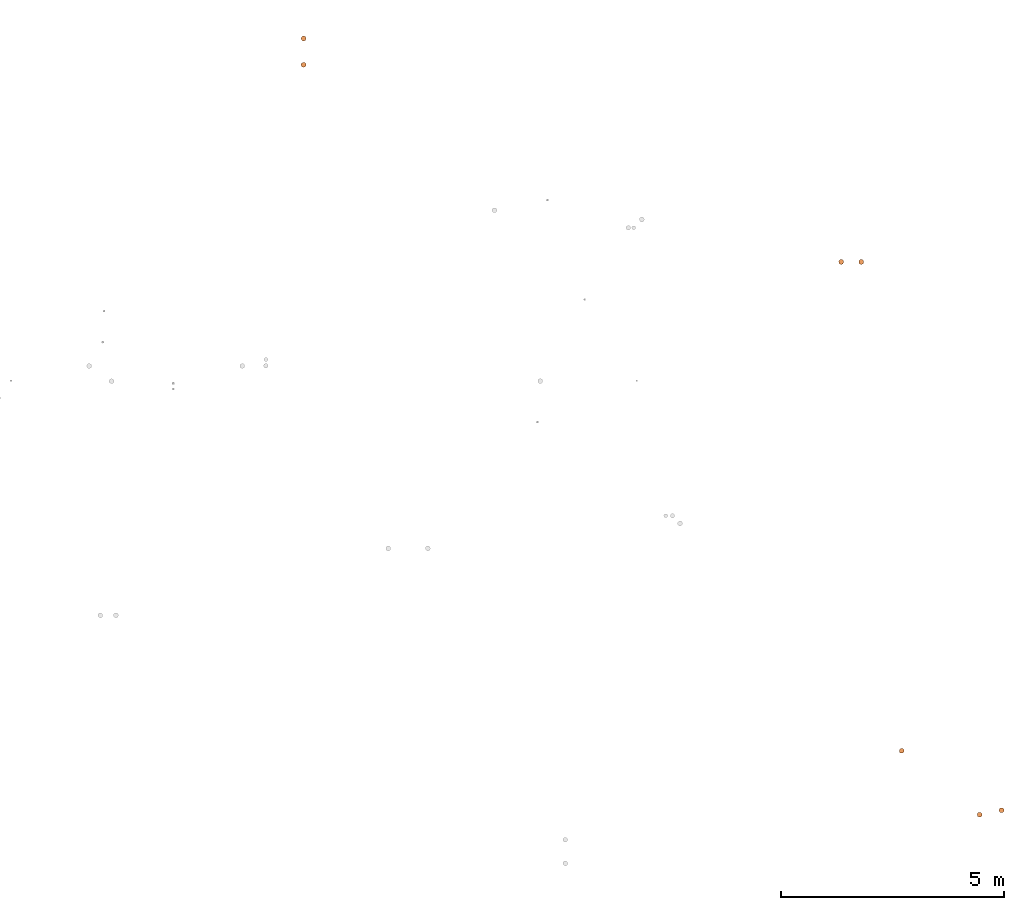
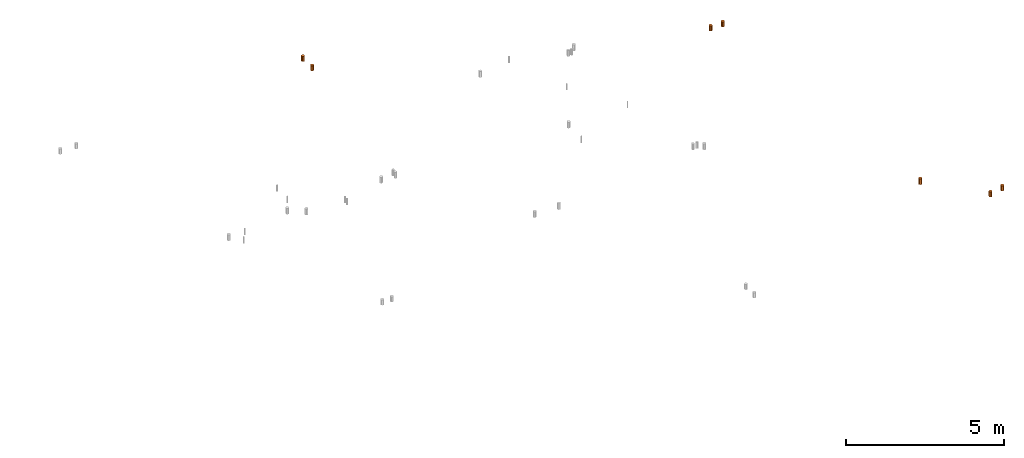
# One storey, part 16 of 16: 7 proxies.
"""IFC2X3 building model written with IfcOpenShell, lengths in centimetres."""

from ifc_helpers import new_model, entity, si_unit, converted_unit, derived_unit, direction, frame, origin, origin_2d_with_axis, place, context, subcontext, project, spatial, circle, extrude, source, transform, mapped, material, type_object, type_shapes, element, save


model = new_model("IFC2X3")

# Units and contexts
model_context = context("Model", 3, precision=0.001, world=origin(), true_north=direction((6.12303176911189e-17, 1.0)))
body_context = subcontext(model_context, "Body", "Model", "MODEL_VIEW")
ifc_project = project(units=[si_unit("LENGTHUNIT", "METRE", prefix="CENTI"), si_unit("AREAUNIT", "SQUARE_METRE"), si_unit("VOLUMEUNIT", "CUBIC_METRE"), converted_unit("PLANEANGLEUNIT", "DEGREE", entity("IfcRatioMeasure", 0.0174532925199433), si_unit("PLANEANGLEUNIT", "RADIAN"), dimensions=[0, 0, 0, 0, 0, 0, 0]), si_unit("MASSUNIT", "GRAM", prefix="KILO"), derived_unit("MASSDENSITYUNIT", [(si_unit("MASSUNIT", "GRAM", prefix="KILO"), 1), (si_unit("LENGTHUNIT", "METRE"), -3)]), si_unit("TIMEUNIT", "SECOND"), si_unit("FREQUENCYUNIT", "HERTZ"), si_unit("THERMODYNAMICTEMPERATUREUNIT", "DEGREE_CELSIUS"), derived_unit("THERMALTRANSMITTANCEUNIT", [(si_unit("MASSUNIT", "GRAM", prefix="KILO"), 1), (si_unit("THERMODYNAMICTEMPERATUREUNIT", "KELVIN"), -1), (si_unit("TIMEUNIT", "SECOND"), -3)]), derived_unit("VOLUMETRICFLOWRATEUNIT", [(si_unit("LENGTHUNIT", "METRE"), 3), (si_unit("TIMEUNIT", "SECOND"), -1)]), si_unit("ELECTRICCURRENTUNIT", "AMPERE"), si_unit("ELECTRICVOLTAGEUNIT", "VOLT"), si_unit("POWERUNIT", "WATT"), si_unit("FORCEUNIT", "NEWTON"), si_unit("ILLUMINANCEUNIT", "LUX"), si_unit("LUMINOUSFLUXUNIT", "LUMEN"), si_unit("LUMINOUSINTENSITYUNIT", "CANDELA"), derived_unit("USERDEFINED", [(si_unit("MASSUNIT", "GRAM", prefix="KILO"), -1), (si_unit("LENGTHUNIT", "METRE"), -2), (si_unit("TIMEUNIT", "SECOND"), 3), (si_unit("LUMINOUSFLUXUNIT", "LUMEN"), 1)]), derived_unit("LINEARVELOCITYUNIT", [(si_unit("LENGTHUNIT", "METRE"), 1), (si_unit("TIMEUNIT", "SECOND"), -1)]), si_unit("PRESSUREUNIT", "PASCAL"), derived_unit("USERDEFINED", [(si_unit("LENGTHUNIT", "METRE"), -2), (si_unit("MASSUNIT", "GRAM", prefix="KILO"), 1), (si_unit("TIMEUNIT", "SECOND"), -2)])], contexts=[model_context])

# Site, building, storey
site_placement = place(None, origin())
site = spatial("IfcSite", under=ifc_project, at=site_placement, Name="Default", CompositionType="ELEMENT")
building_placement = place(site_placement, origin())
building = spatial("IfcBuilding", under=site, at=building_placement, Name="CAGE 03", CompositionType="ELEMENT")
storey_placement = place(building_placement, frame((0.0, 0.0, 65.0)))
storey = spatial("IfcBuildingStorey", under=building, at=storey_placement, Name="Ac RDC", CompositionType="ELEMENT", Elevation=64.9999999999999)

# Proxies
ifc_material = material(Name="BBGO_Résa")
building_element_proxy_type_1 = type_object("IfcBuildingElementProxyType", Name="Ø110", PredefinedType="NOTDEFINED", material=ifc_material)
shared_shape_1 = source(origin(), body_context, "Body", "SweptSolid", [
    extrude(circle(Radius=5.5, at=origin_2d_with_axis()), frame((11603.6563517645, 3494.95134968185, 295.0), z_axis=(0.0, 0.0, 1.0), x_axis=(0.967549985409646, 0.252679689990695, 0.0)), (0.0, 0.0, 1.0), 20.0),
])
type_shapes(building_element_proxy_type_1, [shared_shape_1])
proxy_1_placement = place(storey_placement, frame((0.0, 0.0, -65.0)))
element("IfcBuildingElementProxy", 1, at=proxy_1_placement, inside=storey, type_object=building_element_proxy_type_1, material=ifc_material, Name="BBGO-Résa circ dalle:Ø110", ObjectType="Ø110", context=body_context, shape_type="MappedRepresentation", body=[
    mapped(shared_shape_1, transform((0.0, 0.0, 0.0), scale=1.0)),
])
building_element_proxy_type_2 = type_object("IfcBuildingElementProxyType", Name="Ø110", PredefinedType="NOTDEFINED", material=ifc_material)
shared_shape_2 = source(origin(), body_context, "Body", "SweptSolid", [
    extrude(circle(Radius=5.5, at=origin_2d_with_axis()), frame((11293.3658201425, 4733.66066607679, 295.0)), (0.0, 0.0, 1.0), 20.0),
])
type_shapes(building_element_proxy_type_2, [shared_shape_2])
proxy_2_placement = place(storey_placement, frame((0.0, 0.0, -65.0)))
element("IfcBuildingElementProxy", 2, at=proxy_2_placement, inside=storey, type_object=building_element_proxy_type_2, material=ifc_material, Name="BBGO-Résa circ dalle:Ø110", ObjectType="Ø110", context=body_context, shape_type="MappedRepresentation", body=[
    mapped(shared_shape_2, transform((0.0, 0.0, 0.0), scale=1.0)),
])
building_element_proxy_type_3 = type_object("IfcBuildingElementProxyType", Name="Ø110", PredefinedType="NOTDEFINED", material=ifc_material)
shared_shape_3 = source(origin(), body_context, "Body", "SweptSolid", [
    extrude(circle(Radius=5.5, at=origin_2d_with_axis()), frame((10088.8602022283, 5234.24642234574, 295.0)), (0.0, 0.0, 1.0), 20.0),
])
type_shapes(building_element_proxy_type_3, [shared_shape_3])
proxy_3_placement = place(storey_placement, frame((0.0, 0.0, -65.0)))
element("IfcBuildingElementProxy", 3, at=proxy_3_placement, inside=storey, type_object=building_element_proxy_type_3, material=ifc_material, Name="BBGO-Résa circ dalle:Ø110", ObjectType="Ø110", context=body_context, shape_type="MappedRepresentation", body=[
    mapped(shared_shape_3, transform((0.0, 0.0, 0.0), scale=1.0)),
])
building_element_proxy_type_4 = type_object("IfcBuildingElementProxyType", Name="Ø110", PredefinedType="NOTDEFINED", material=ifc_material)
shared_shape_4 = source(origin(), body_context, "Body", "SweptSolid", [
    extrude(circle(Radius=5.5, at=origin_2d_with_axis()), frame((10088.8602022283, 5175.24642234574, 295.0)), (0.0, 0.0, 1.0), 20.0),
])
type_shapes(building_element_proxy_type_4, [shared_shape_4])
proxy_4_placement = place(storey_placement, frame((0.0, 0.0, -65.0)))
element("IfcBuildingElementProxy", 4, at=proxy_4_placement, inside=storey, type_object=building_element_proxy_type_4, material=ifc_material, Name="BBGO-Résa circ dalle:Ø110", ObjectType="Ø110", context=body_context, shape_type="MappedRepresentation", body=[
    mapped(shared_shape_4, transform((0.0, 0.0, 0.0), scale=1.0)),
])
building_element_proxy_type_5 = type_object("IfcBuildingElementProxyType", Name="Ø110", PredefinedType="NOTDEFINED", material=ifc_material)
shared_shape_5 = source(origin(), body_context, "Body", "SweptSolid", [
    extrude(circle(Radius=5.5, at=origin_2d_with_axis()), frame((11338.3658201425, 4733.66066607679, 295.0)), (0.0, 0.0, 1.0), 20.0),
])
type_shapes(building_element_proxy_type_5, [shared_shape_5])
proxy_5_placement = place(storey_placement, frame((0.0, 0.0, -65.0)))
element("IfcBuildingElementProxy", 5, at=proxy_5_placement, inside=storey, type_object=building_element_proxy_type_5, material=ifc_material, Name="BBGO-Résa circ dalle:Ø110", ObjectType="Ø110", context=body_context, shape_type="MappedRepresentation", body=[
    mapped(shared_shape_5, transform((0.0, 0.0, 0.0), scale=1.0)),
])
building_element_proxy_type_6 = type_object("IfcBuildingElementProxyType", Name="Ø110", PredefinedType="NOTDEFINED", material=ifc_material)
shared_shape_6 = source(origin(), body_context, "Body", "SweptSolid", [
    extrude(circle(Radius=5.5, at=origin_2d_with_axis()), frame((11652.6929317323, 3505.06161128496, 295.0), z_axis=(0.0, 0.0, 1.0), x_axis=(0.967549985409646, 0.252679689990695, 0.0)), (0.0, 0.0, 1.0), 20.0),
])
type_shapes(building_element_proxy_type_6, [shared_shape_6])
proxy_6_placement = place(storey_placement, frame((0.0, 0.0, -65.0)))
element("IfcBuildingElementProxy", 6, at=proxy_6_placement, inside=storey, type_object=building_element_proxy_type_6, material=ifc_material, Name="BBGO-Résa circ dalle:Ø110", ObjectType="Ø110", context=body_context, shape_type="MappedRepresentation", body=[
    mapped(shared_shape_6, transform((0.0, 0.0, 0.0), scale=1.0)),
])
building_element_proxy_type_7 = type_object("IfcBuildingElementProxyType", Name="Ø110", PredefinedType="NOTDEFINED", material=ifc_material)
shared_shape_7 = source(origin(), body_context, "Body", "SweptSolid", [
    extrude(circle(Radius=5.5, at=origin_2d_with_axis()), frame((11428.9832589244, 3638.2226852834, 317.0)), (0.0, 0.0, 1.0), 22.9999999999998),
])
type_shapes(building_element_proxy_type_7, [shared_shape_7])
proxy_7_placement = place(storey_placement, frame((0.0, 0.0, -65.0)))
element("IfcBuildingElementProxy", 7, at=proxy_7_placement, inside=storey, type_object=building_element_proxy_type_7, material=ifc_material, Name="BBGO-Résa circ dalle:Ø110", ObjectType="Ø110", context=body_context, shape_type="MappedRepresentation", body=[
    mapped(shared_shape_7, transform((0.0, 0.0, 0.0), scale=1.0)),
])

save(model, "model.ifc")
